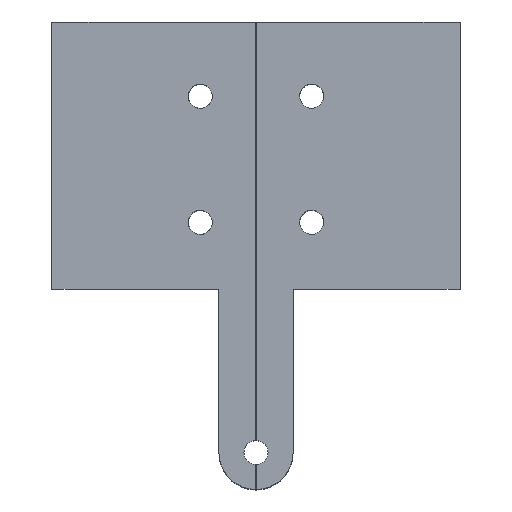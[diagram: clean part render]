
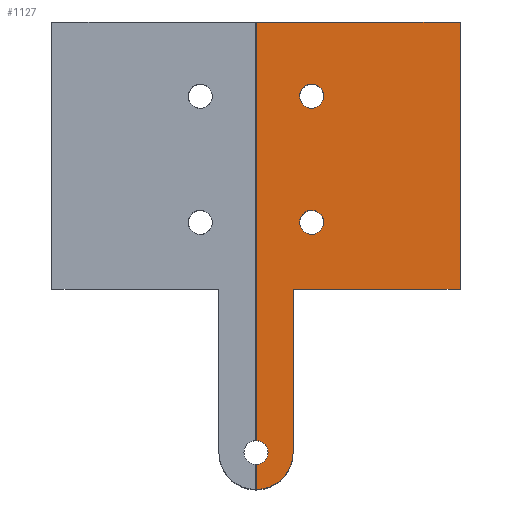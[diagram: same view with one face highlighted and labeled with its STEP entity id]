
A CAD part, top view. The second image highlights one B-rep face of the part: STEP entity #1127.
In plain terms, the highlighted planar face has unit normal (0, 0, 1).
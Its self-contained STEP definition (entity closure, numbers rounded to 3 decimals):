
#48=AXIS2_PLACEMENT_3D('Circle Axis2P3D',#46,#47,$) ;
#89=AXIS2_PLACEMENT_3D('Circle Axis2P3D',#87,#88,$) ;
#149=AXIS2_PLACEMENT_3D('Circle Axis2P3D',#147,#148,$) ;
#888=AXIS2_PLACEMENT_3D('Circle Axis2P3D',#886,#887,$) ;
#907=AXIS2_PLACEMENT_3D('Circle Axis2P3D',#905,#906,$) ;
#1092=AXIS2_PLACEMENT_3D('Plane Axis2P3D',#1089,#1090,#1091) ;
#1107=AXIS2_PLACEMENT_3D('Circle Axis2P3D',#1105,#1106,$) ;
#1116=AXIS2_PLACEMENT_3D('Circle Axis2P3D',#1114,#1115,$) ;
#41=CARTESIAN_POINT('Vertex',(6.077,47.223,13.)) ;
#46=CARTESIAN_POINT('Axis2P3D Location',(7.5,48.,13.)) ;
#50=CARTESIAN_POINT('Vertex',(8.923,48.777,13.)) ;
#87=CARTESIAN_POINT('Axis2P3D Location',(7.5,48.,13.)) ;
#144=CARTESIAN_POINT('Vertex',(5.,0.,13.)) ;
#147=CARTESIAN_POINT('Axis2P3D Location',(0.,0.,13.)) ;
#151=CARTESIAN_POINT('Vertex',(0.09,-4.999,13.)) ;
#183=CARTESIAN_POINT('Vertex',(5.,22.,13.)) ;
#186=CARTESIAN_POINT('Line Origine',(5.,11.,13.)) ;
#214=CARTESIAN_POINT('Vertex',(27.5,22.,13.)) ;
#217=CARTESIAN_POINT('Line Origine',(16.25,22.,13.)) ;
#245=CARTESIAN_POINT('Vertex',(27.5,58.,13.)) ;
#248=CARTESIAN_POINT('Line Origine',(27.5,40.,13.)) ;
#305=CARTESIAN_POINT('Vertex',(0.09,58.,13.)) ;
#310=CARTESIAN_POINT('Line Origine',(13.795,58.,13.)) ;
#369=CARTESIAN_POINT('Vertex',(0.09,1.618,13.)) ;
#372=CARTESIAN_POINT('Line Origine',(0.09,29.809,13.)) ;
#444=CARTESIAN_POINT('Line Origine',(0.09,-3.309,13.)) ;
#448=CARTESIAN_POINT('Vertex',(0.09,-1.618,13.)) ;
#886=CARTESIAN_POINT('Axis2P3D Location',(0.,0.,13.)) ;
#890=CARTESIAN_POINT('Vertex',(1.423,-0.777,13.)) ;
#905=CARTESIAN_POINT('Axis2P3D Location',(0.,0.,13.)) ;
#1089=CARTESIAN_POINT('Axis2P3D Location',(0.,0.,13.)) ;
#1105=CARTESIAN_POINT('Axis2P3D Location',(7.5,31.,13.)) ;
#1109=CARTESIAN_POINT('Vertex',(6.077,30.223,13.)) ;
#1111=CARTESIAN_POINT('Vertex',(8.923,31.777,13.)) ;
#1114=CARTESIAN_POINT('Axis2P3D Location',(7.5,31.,13.)) ;
#47=DIRECTION('Axis2P3D Direction',(0.,-0.,1.)) ;
#88=DIRECTION('Axis2P3D Direction',(0.,-0.,1.)) ;
#148=DIRECTION('Axis2P3D Direction',(0.,0.,-1.)) ;
#187=DIRECTION('Vector Direction',(0.,1.,0.)) ;
#218=DIRECTION('Vector Direction',(-1.,0.,0.)) ;
#249=DIRECTION('Vector Direction',(0.,1.,0.)) ;
#311=DIRECTION('Vector Direction',(1.,0.,0.)) ;
#373=DIRECTION('Vector Direction',(0.,-1.,0.)) ;
#445=DIRECTION('Vector Direction',(0.,-1.,0.)) ;
#887=DIRECTION('Axis2P3D Direction',(0.,-0.,-1.)) ;
#906=DIRECTION('Axis2P3D Direction',(0.,-0.,-1.)) ;
#1090=DIRECTION('Axis2P3D Direction',(0.,0.,1.)) ;
#1091=DIRECTION('Axis2P3D XDirection',(1.,0.,0.)) ;
#1106=DIRECTION('Axis2P3D Direction',(0.,0.,1.)) ;
#1115=DIRECTION('Axis2P3D Direction',(0.,0.,1.)) ;
#188=VECTOR('Line Direction',#187,1.) ;
#219=VECTOR('Line Direction',#218,1.) ;
#250=VECTOR('Line Direction',#249,1.) ;
#312=VECTOR('Line Direction',#311,1.) ;
#374=VECTOR('Line Direction',#373,1.) ;
#446=VECTOR('Line Direction',#445,1.) ;
#1095=ORIENTED_EDGE('',*,*,#153,.T.) ;
#1096=ORIENTED_EDGE('',*,*,#190,.T.) ;
#1097=ORIENTED_EDGE('',*,*,#221,.T.) ;
#1098=ORIENTED_EDGE('',*,*,#252,.T.) ;
#1099=ORIENTED_EDGE('',*,*,#314,.T.) ;
#1100=ORIENTED_EDGE('',*,*,#376,.T.) ;
#1101=ORIENTED_EDGE('',*,*,#909,.F.) ;
#1102=ORIENTED_EDGE('',*,*,#892,.F.) ;
#1103=ORIENTED_EDGE('',*,*,#450,.T.) ;
#1120=ORIENTED_EDGE('',*,*,#1113,.F.) ;
#1121=ORIENTED_EDGE('',*,*,#1118,.F.) ;
#1124=ORIENTED_EDGE('',*,*,#91,.F.) ;
#1125=ORIENTED_EDGE('',*,*,#52,.F.) ;
#1122=FACE_BOUND('',#1119,.T.) ;
#1126=FACE_BOUND('',#1123,.T.) ;
#1127=ADVANCED_FACE('\X2\51E04F554F53\X0\.3',(#1104,#1122,#1126),#1093,.T.) ;
#49=CIRCLE('generated circle',#48,1.621) ;
#90=CIRCLE('generated circle',#89,1.621) ;
#150=CIRCLE('generated circle',#149,5.) ;
#889=CIRCLE('generated circle',#888,1.621) ;
#908=CIRCLE('generated circle',#907,1.621) ;
#1108=CIRCLE('generated circle',#1107,1.621) ;
#1117=CIRCLE('generated circle',#1116,1.621) ;
#52=EDGE_CURVE('',#42,#51,#49,.T.) ;
#91=EDGE_CURVE('',#51,#42,#90,.T.) ;
#153=EDGE_CURVE('',#152,#145,#150,.F.) ;
#190=EDGE_CURVE('',#145,#184,#189,.T.) ;
#221=EDGE_CURVE('',#184,#215,#220,.F.) ;
#252=EDGE_CURVE('',#215,#246,#251,.T.) ;
#314=EDGE_CURVE('',#246,#306,#313,.F.) ;
#376=EDGE_CURVE('',#306,#370,#375,.T.) ;
#450=EDGE_CURVE('',#449,#152,#447,.T.) ;
#892=EDGE_CURVE('',#449,#891,#889,.F.) ;
#909=EDGE_CURVE('',#891,#370,#908,.F.) ;
#1113=EDGE_CURVE('',#1110,#1112,#1108,.T.) ;
#1118=EDGE_CURVE('',#1112,#1110,#1117,.T.) ;
#1094=EDGE_LOOP('',(#1095,#1096,#1097,#1098,#1099,#1100,#1101,#1102,#1103)) ;
#1119=EDGE_LOOP('',(#1120,#1121)) ;
#1123=EDGE_LOOP('',(#1124,#1125)) ;
#1104=FACE_OUTER_BOUND('',#1094,.T.) ;
#189=LINE('Line',#186,#188) ;
#220=LINE('Line',#217,#219) ;
#251=LINE('Line',#248,#250) ;
#313=LINE('Line',#310,#312) ;
#375=LINE('Line',#372,#374) ;
#447=LINE('Line',#444,#446) ;
#1093=PLANE('',#1092) ;
#42=VERTEX_POINT('',#41) ;
#51=VERTEX_POINT('',#50) ;
#145=VERTEX_POINT('',#144) ;
#152=VERTEX_POINT('',#151) ;
#184=VERTEX_POINT('',#183) ;
#215=VERTEX_POINT('',#214) ;
#246=VERTEX_POINT('',#245) ;
#306=VERTEX_POINT('',#305) ;
#370=VERTEX_POINT('',#369) ;
#449=VERTEX_POINT('',#448) ;
#891=VERTEX_POINT('',#890) ;
#1110=VERTEX_POINT('',#1109) ;
#1112=VERTEX_POINT('',#1111) ;
